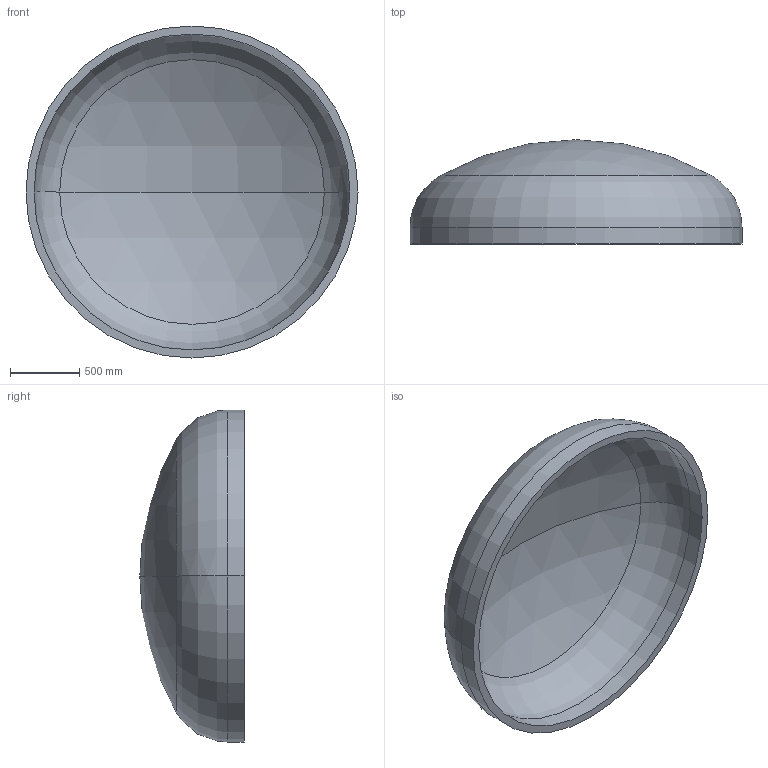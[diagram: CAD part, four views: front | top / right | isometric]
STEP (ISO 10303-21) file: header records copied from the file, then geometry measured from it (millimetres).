
FILE_DESCRIPTION (( 'STEP AP203' ), '1' );
FILE_NAME ('DIN 28013 Korbbogenform_-_Boden DIN 28013 - 2400 x 120 - I - s=58.step', '2016-07-01T15:29:01', ( '' ), ( '' ), 'SwSTEP 2.0', 'SolidWorks 2013', '' );
FILE_SCHEMA (( 'CONFIG_CONTROL_DESIGN' ));
Length unit declared in the file: millimetre
Products named in the file (1): DIN 28013 Korbbogenform_-_Boden DIN 28013 - 2400 x 120 - I - s=58
Bounding box: 2400 x 753.93 x 2400 mm (x, y, z)
Volume: 403340132.9 mm3; surface area: 14342062.9 mm2
Topology: 1 solids, 1 shells, 13 faces, 24 edges, 14 vertices
Faces by surface type: torus 4, cylinder 4, sphere 4, plane 1
Entity records: 407 total; most frequent: DIRECTION 72, CARTESIAN_POINT 52, ORIENTED_EDGE 48, AXIS2_PLACEMENT_3D 34, EDGE_CURVE 24, CIRCLE 20, VERTEX_POINT 14, EDGE_LOOP 14
